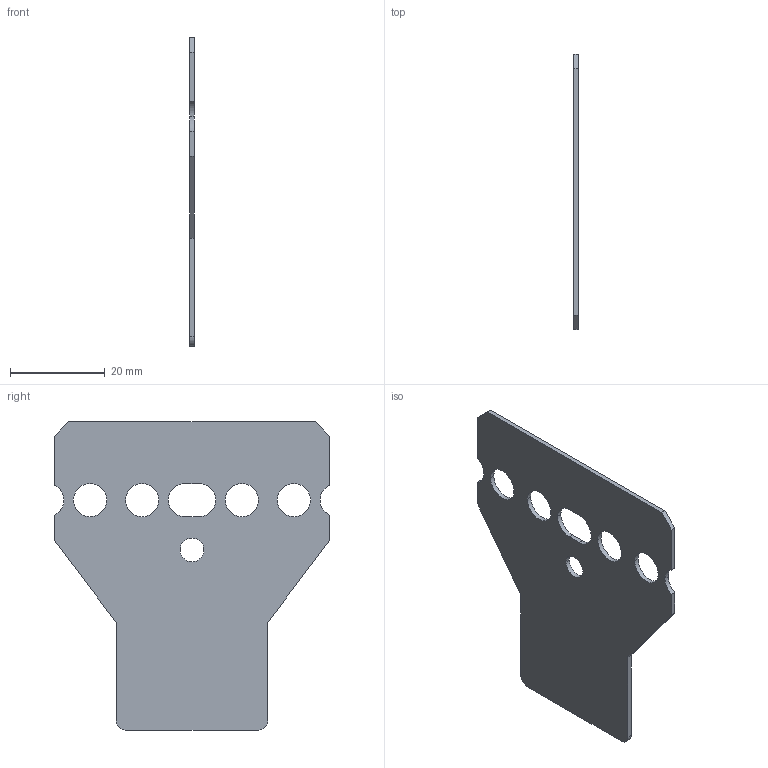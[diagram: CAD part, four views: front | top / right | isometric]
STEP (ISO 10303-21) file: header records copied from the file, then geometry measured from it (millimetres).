
FILE_DESCRIPTION (( 'STEP AP214' ), '1' );
FILE_NAME ('NOVA-Pro_Kunststoffadapter_1mm_rechts.step', '2010-09-29T09:37:24', ( 'grass' ), ( '' ), 'SwSTEP 2.0', 'SolidWorks 2010', '' );
FILE_SCHEMA (( 'AUTOMOTIVE_DESIGN' ));
Length unit declared in the file: millimetre
Products named in the file (1): NOVA-Pro_Kunststoffadapter_1mm_rechts
Bounding box: 1 x 58 x 65 mm (x, y, z)
Volume: 2692.3 mm3; surface area: 5743 mm2
Topology: 1 solids, 1 shells, 34 faces, 96 edges, 64 vertices
Faces by surface type: cylinder 18, plane 16
Entity records: 1174 total; most frequent: DIRECTION 202, CARTESIAN_POINT 195, ORIENTED_EDGE 192, EDGE_CURVE 96, AXIS2_PLACEMENT_3D 71, VERTEX_POINT 64, LINE 60, VECTOR 60
